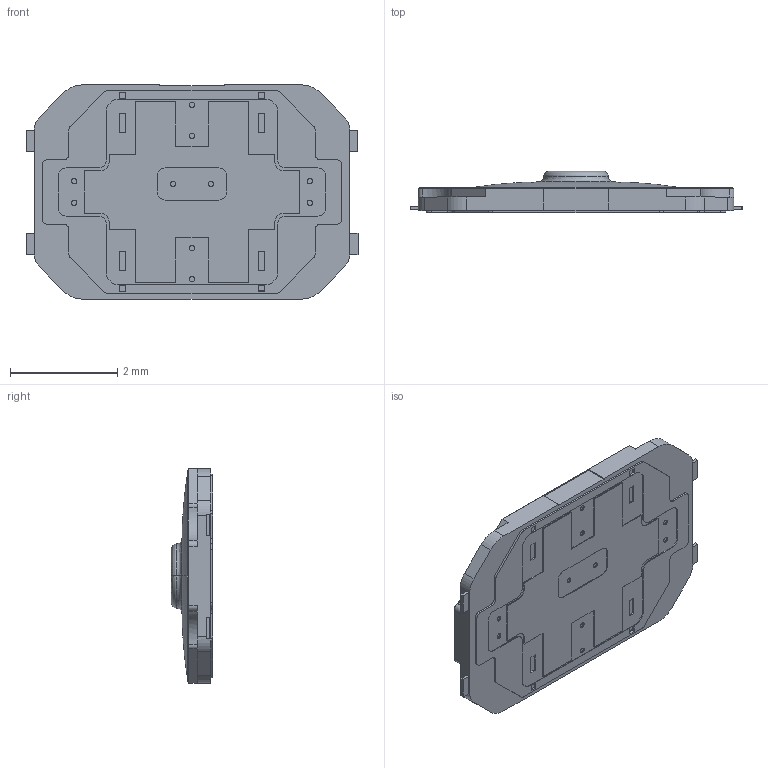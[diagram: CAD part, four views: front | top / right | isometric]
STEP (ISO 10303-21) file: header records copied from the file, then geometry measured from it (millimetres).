
FILE_DESCRIPTION (( 'STEP AP203' ), '1' );
FILE_NAME ('TAF18.STEP', '2024-06-03T03:23:43', ( '' ), ( '' ), 'SwSTEP 2.0', 'SolidWorks 2020', '' );
FILE_SCHEMA (( 'CONFIG_CONTROL_DESIGN' ));
Length unit declared in the file: millimetre
Products named in the file (1): TAF18
Bounding box: 6.2 x 0.78 x 4 mm (x, y, z)
Volume: 10.9 mm3; surface area: 55.7 mm2
Topology: 1 solids, 1 shells, 272 faces, 728 edges, 481 vertices
Faces by surface type: plane 186, cylinder 60, cone 20, bspline 6
Entity records: 8643 total; most frequent: CARTESIAN_POINT 1614, ORIENTED_EDGE 1456, DIRECTION 1442, EDGE_CURVE 728, VECTOR 538, LINE 538, VERTEX_POINT 481, AXIS2_PLACEMENT_3D 452
